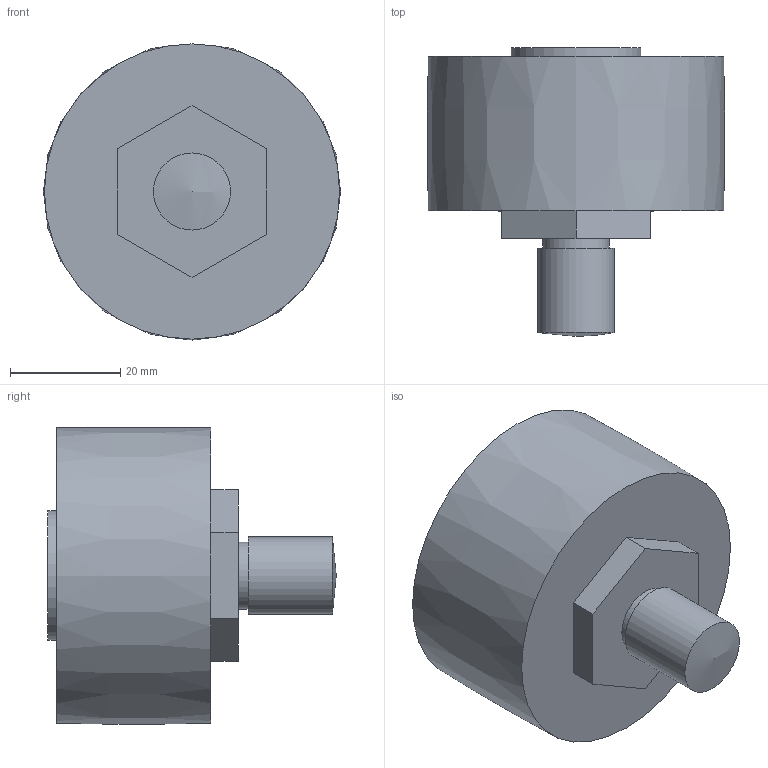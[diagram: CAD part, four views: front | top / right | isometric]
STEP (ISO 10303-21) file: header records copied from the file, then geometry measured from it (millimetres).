
FILE_DESCRIPTION( ( 'STEP AP203' ), '1' );
FILE_NAME( 'p:/temp/worker_105/temp/exporttempdir_6492_1266_05f8f/format_0/BHR54C.stp', '2021-09-29T07:20:43', ( 'License CC BY-ND 4.0' ), ( 'CADENAS' ), ' ', 'PARTsolutions', ' ' );
FILE_SCHEMA( ( 'CONFIG_CONTROL_DESIGN' ) );
Length unit declared in the file: millimetre
Products named in the file (2): BHR54C; _BHR54C_C
Assembly tree (1 placements, depth 2):
  BHR54C
    _BHR54C_C
Bounding box: 53.96 x 52.4 x 53.78 mm (x, y, z)
Volume: 69813.1 mm3; surface area: 10877 mm2
Topology: 1 solids, 1 shells, 23 faces, 52 edges, 35 vertices
Faces by surface type: plane 18, cylinder 3, bspline 1, sphere 1
Full cylindrical faces by diameter (mm): 12.16 x1, 14 x1, 23.5 x1
Entity records: 696 total; most frequent: CARTESIAN_POINT 129, DIRECTION 100, ORIENTED_EDGE 88, EDGE_CURVE 44, LINE 36, VECTOR 36, VERTEX_POINT 33, AXIS2_PLACEMENT_3D 32
